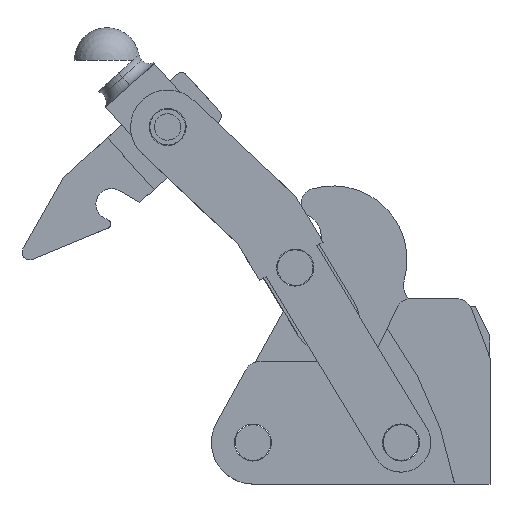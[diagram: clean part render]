
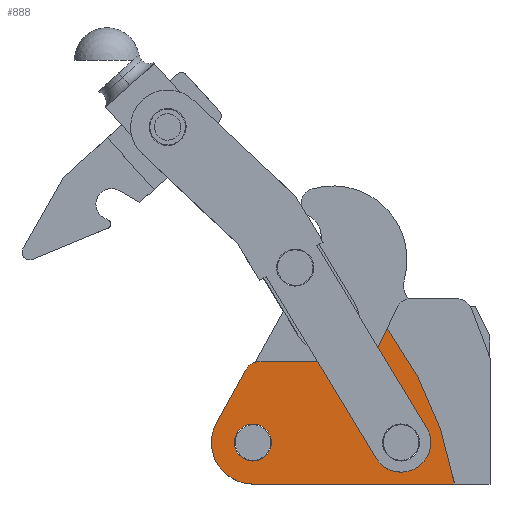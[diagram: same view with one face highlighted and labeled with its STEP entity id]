
A CAD part, top view. The second image highlights one B-rep face of the part: STEP entity #888.
In plain terms, the highlighted planar face has unit normal (0, 0, 1).
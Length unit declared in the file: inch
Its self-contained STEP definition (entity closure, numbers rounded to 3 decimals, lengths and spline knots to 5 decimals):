
#888 = ADVANCED_FACE( '', ( #1377, #1378, #1379 ), #1380, .T. );
#1377 = FACE_OUTER_BOUND( '', #1965, .T. );
#1378 = FACE_BOUND( '', #1966, .T. );
#1379 = FACE_BOUND( '', #1967, .T. );
#1380 = PLANE( '', #1968 );
#1965 = EDGE_LOOP( '', ( #3797, #3798, #3799, #3800, #3801, #3802, #3803, #3804, #3805 ) );
#1966 = EDGE_LOOP( '', ( #3806, #3807 ) );
#1967 = EDGE_LOOP( '', ( #3808, #3809 ) );
#1968 = AXIS2_PLACEMENT_3D( '', #3810, #3811, #3812 );
#3797 = ORIENTED_EDGE( '', *, *, #5033, .T. );
#3798 = ORIENTED_EDGE( '', *, *, #4893, .T. );
#3799 = ORIENTED_EDGE( '', *, *, #5034, .T. );
#3800 = ORIENTED_EDGE( '', *, *, #5035, .T. );
#3801 = ORIENTED_EDGE( '', *, *, #5036, .T. );
#3802 = ORIENTED_EDGE( '', *, *, #5017, .T. );
#3803 = ORIENTED_EDGE( '', *, *, #5023, .F. );
#3804 = ORIENTED_EDGE( '', *, *, #5037, .T. );
#3805 = ORIENTED_EDGE( '', *, *, #5038, .T. );
#3806 = ORIENTED_EDGE( '', *, *, #4931, .F. );
#3807 = ORIENTED_EDGE( '', *, *, #5032, .F. );
#3808 = ORIENTED_EDGE( '', *, *, #4927, .F. );
#3809 = ORIENTED_EDGE( '', *, *, #5039, .F. );
#3810 = CARTESIAN_POINT( '', ( 0., 0., 0.5025 ) );
#3811 = DIRECTION( '', ( 0., 0., 1. ) );
#3812 = DIRECTION( '', ( 1., 0., 0. ) );
#4893 = EDGE_CURVE( '', #5943, #5940, #5944, .T. );
#4927 = EDGE_CURVE( '', #6008, #6011, #6012, .T. );
#4931 = EDGE_CURVE( '', #6016, #6019, #6020, .T. );
#5017 = EDGE_CURVE( '', #6159, #6157, #6160, .T. );
#5023 = EDGE_CURVE( '', #6167, #6157, #6169, .T. );
#5032 = EDGE_CURVE( '', #6019, #6016, #6182, .T. );
#5033 = EDGE_CURVE( '', #6183, #5943, #6184, .T. );
#5034 = EDGE_CURVE( '', #5940, #6185, #6186, .T. );
#5035 = EDGE_CURVE( '', #6185, #6187, #6188, .T. );
#5036 = EDGE_CURVE( '', #6187, #6159, #6189, .T. );
#5037 = EDGE_CURVE( '', #6167, #6190, #6191, .T. );
#5038 = EDGE_CURVE( '', #6190, #6183, #6192, .T. );
#5039 = EDGE_CURVE( '', #6011, #6008, #6193, .T. );
#5940 = VERTEX_POINT( '', #7491 );
#5943 = VERTEX_POINT( '', #7495 );
#5944 = CIRCLE( '', #7496, 0.56 );
#6008 = VERTEX_POINT( '', #7607 );
#6011 = VERTEX_POINT( '', #7611 );
#6012 = CIRCLE( '', #7612, 0.25 );
#6016 = VERTEX_POINT( '', #7617 );
#6019 = VERTEX_POINT( '', #7621 );
#6020 = CIRCLE( '', #7622, 0.25 );
#6157 = VERTEX_POINT( '', #7847 );
#6159 = VERTEX_POINT( '', #7850 );
#6160 = LINE( '', #7851, #7852 );
#6167 = VERTEX_POINT( '', #7862 );
#6169 = CIRCLE( '', #7865, 0.4 );
#6182 = CIRCLE( '', #7881, 0.25 );
#6183 = VERTEX_POINT( '', #7882 );
#6184 = LINE( '', #7883, #7884 );
#6185 = VERTEX_POINT( '', #7885 );
#6186 = CIRCLE( '', #7886, 0.56 );
#6187 = VERTEX_POINT( '', #7887 );
#6188 = LINE( '', #7888, #7889 );
#6189 = CIRCLE( '', #7890, 5. );
#6190 = VERTEX_POINT( '', #7891 );
#6191 = LINE( '', #7892, #7893 );
#6192 = CIRCLE( '', #7894, 0.2 );
#6193 = CIRCLE( '', #7895, 0.25 );
#7491 = CARTESIAN_POINT( '', ( -3.76, 0.56, 0.5025 ) );
#7495 = CARTESIAN_POINT( '', ( -3.68979, 0.83149, 0.5025 ) );
#7496 = AXIS2_PLACEMENT_3D( '', #9015, #9016, #9017 );
#7607 = CARTESIAN_POINT( '', ( -2.95, 0.56, 0.5025 ) );
#7611 = CARTESIAN_POINT( '', ( -3.45, 0.56, 0.5025 ) );
#7612 = AXIS2_PLACEMENT_3D( '', #9081, #9082, #9083 );
#7617 = CARTESIAN_POINT( '', ( -0.95, 0.56, 0.5025 ) );
#7621 = CARTESIAN_POINT( '', ( -1.45, 0.56, 0.5025 ) );
#7622 = AXIS2_PLACEMENT_3D( '', #9089, #9090, #9091 );
#7847 = CARTESIAN_POINT( '', ( -1.49191, 1.87968, 0.5025 ) );
#7850 = CARTESIAN_POINT( '', ( -1.38701, 2.1026, 0.5025 ) );
#7851 = CARTESIAN_POINT( '', ( -1.38701, 2.1026, 0.5025 ) );
#7852 = VECTOR( '', #9215, 1. );
#7862 = CARTESIAN_POINT( '', ( -1.85384, 1.65, 0.5025 ) );
#7865 = AXIS2_PLACEMENT_3D( '', #9223, #9224, #9225 );
#7881 = AXIS2_PLACEMENT_3D( '', #9244, #9245, #9246 );
#7882 = CARTESIAN_POINT( '', ( -3.2932, 1.54696, 0.5025 ) );
#7883 = CARTESIAN_POINT( '', ( -3.2932, 1.54696, 0.5025 ) );
#7884 = VECTOR( '', #9247, 1. );
#7885 = CARTESIAN_POINT( '', ( -3.2, 0., 0.5025 ) );
#7886 = AXIS2_PLACEMENT_3D( '', #9248, #9249, #9250 );
#7887 = CARTESIAN_POINT( '', ( -0.47805, 0., 0.5025 ) );
#7888 = CARTESIAN_POINT( '', ( -3.2, 0., 0.5025 ) );
#7889 = VECTOR( '', #9251, 1. );
#7890 = AXIS2_PLACEMENT_3D( '', #9252, #9253, #9254 );
#7891 = CARTESIAN_POINT( '', ( -3.11827, 1.65, 0.5025 ) );
#7892 = CARTESIAN_POINT( '', ( -1.85384, 1.65, 0.5025 ) );
#7893 = VECTOR( '', #9255, 1. );
#7894 = AXIS2_PLACEMENT_3D( '', #9256, #9257, #9258 );
#7895 = AXIS2_PLACEMENT_3D( '', #9259, #9260, #9261 );
#9015 = CARTESIAN_POINT( '', ( -3.2, 0.56, 0.5025 ) );
#9016 = DIRECTION( '', ( 0., 0., 1. ) );
#9017 = DIRECTION( '', ( -0.875, 0.485, 0. ) );
#9081 = CARTESIAN_POINT( '', ( -3.2, 0.56, 0.5025 ) );
#9082 = DIRECTION( '', ( 0., 0., 1. ) );
#9083 = DIRECTION( '', ( 1., 0., 0. ) );
#9089 = CARTESIAN_POINT( '', ( -1.2, 0.56, 0.5025 ) );
#9090 = DIRECTION( '', ( 0., 0., 1. ) );
#9091 = DIRECTION( '', ( 1., 0., 0. ) );
#9215 = DIRECTION( '', ( -0.426, -0.905, 0. ) );
#9223 = CARTESIAN_POINT( '', ( -1.85384, 2.05, 0.5025 ) );
#9224 = DIRECTION( '', ( 0., 0., 1. ) );
#9225 = DIRECTION( '', ( 0., -1., 0. ) );
#9244 = CARTESIAN_POINT( '', ( -1.2, 0.56, 0.5025 ) );
#9245 = DIRECTION( '', ( 0., 0., 1. ) );
#9246 = DIRECTION( '', ( 1., 0., 0. ) );
#9247 = DIRECTION( '', ( -0.485, -0.875, 0. ) );
#9248 = CARTESIAN_POINT( '', ( -3.2, 0.56, 0.5025 ) );
#9249 = DIRECTION( '', ( 0., 0., 1. ) );
#9250 = DIRECTION( '', ( -0.875, 0.485, 0. ) );
#9251 = DIRECTION( '', ( 1., 0., 0. ) );
#9252 = CARTESIAN_POINT( '', ( -5.4, -0.88, 0.5025 ) );
#9253 = DIRECTION( '', ( 0., 0., 1. ) );
#9254 = DIRECTION( '', ( 0.984, 0.176, 0. ) );
#9255 = DIRECTION( '', ( -1., 0., 0. ) );
#9256 = CARTESIAN_POINT( '', ( -3.11827, 1.45, 0.5025 ) );
#9257 = DIRECTION( '', ( 0., 0., 1. ) );
#9258 = DIRECTION( '', ( 0., 1., 0. ) );
#9259 = CARTESIAN_POINT( '', ( -3.2, 0.56, 0.5025 ) );
#9260 = DIRECTION( '', ( 0., 0., 1. ) );
#9261 = DIRECTION( '', ( 1., 0., 0. ) );
